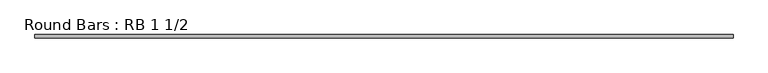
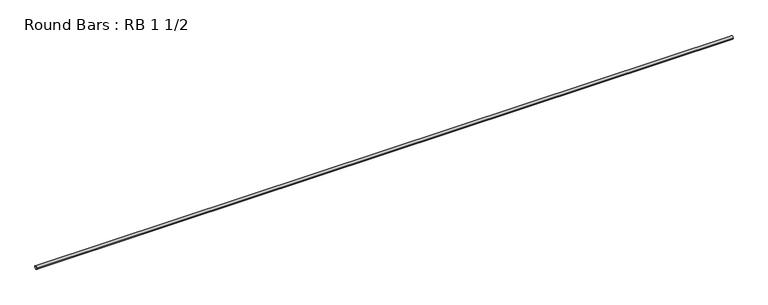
"""IFC4 building model written with IfcOpenShell, lengths in millimetres: member geometry, Round Bars : RB 1 1/2."""

from ifc_helpers import new_model, si_unit, point, frame, origin, origin_2d, place, context, project, spatial, circle_curve, trimmed, segment, composite_curve, outline, extrude, source, transform, mapped, element, save


def round_bars_rb_1_1_2_dfbd4282(model_context):
    return source(origin(), model_context, "Body", "SweptSolid", [
        extrude(outline(composite_curve([segment(trimmed(circle_curve(origin_2d(), 19.05), [point((19.05, 0.0))], [point((-19.05, 0.0))], False, "CARTESIAN"), True, "CONTINUOUS"), segment(trimmed(circle_curve(origin_2d(), 19.05), [point((-19.05, 0.0))], [point((19.05, 0.0))], False, "CARTESIAN"), True, "CONTINUOUS")], self_intersect=False)), frame((-4238.0654756, 0.0, 0.0), z_axis=(1.0, 0.0, 0.0), x_axis=(0.0, 1.0, 0.0)), (0.0, 0.0, 1.0), 8326.856063),
    ])


if __name__ == "__main__":
    model = new_model("IFC4")
    model_context = context("Model", 3, world=origin())
    ifc_project = project(units=[si_unit("LENGTHUNIT", "METRE", prefix="MILLI")], contexts=[model_context])
    site = spatial("IfcSite", under=ifc_project)
    building = spatial("IfcBuilding", under=site)
    placement = place(None, origin())
    round_bars_rb_1_1_2_shape = round_bars_rb_1_1_2_dfbd4282(model_context)
    element("IfcMember", 1, ObjectType="Round Bars : RB 1 1/2", at=placement, inside=building, context=model_context, shape_type="MappedRepresentation", body=[
        mapped(round_bars_rb_1_1_2_shape, transform((0.0, 0.0, 0.0), x_axis=(1.0, 0.0, 0.0), y_axis=(0.0, 1.0, 0.0), z_axis=(0.0, 0.0, 1.0))),
    ])
    save(model, "model.ifc")
